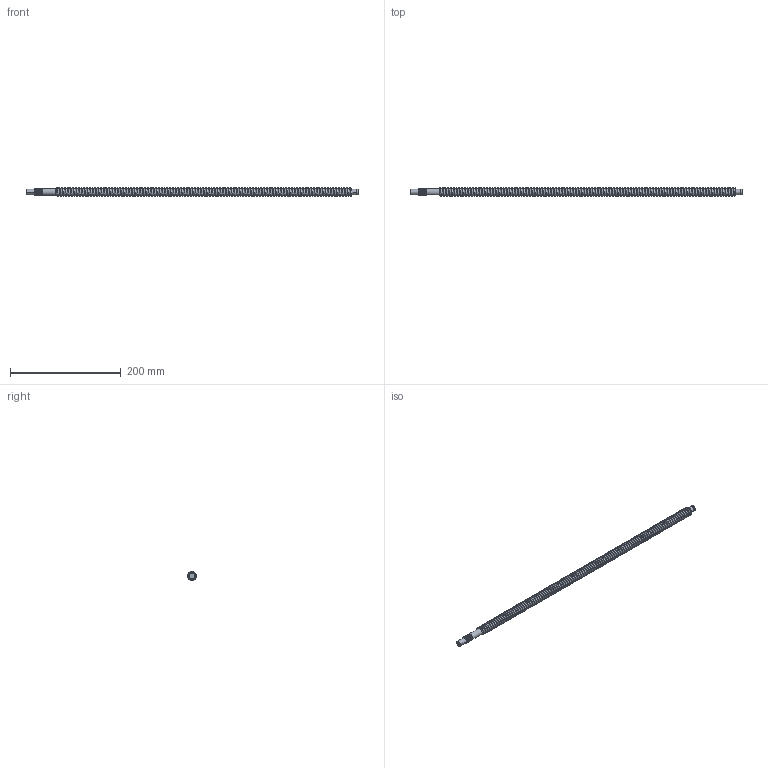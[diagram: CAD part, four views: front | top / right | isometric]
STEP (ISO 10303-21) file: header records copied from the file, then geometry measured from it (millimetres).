
FILE_DESCRIPTION (( 'STEP AP214' ), '1' );
FILE_NAME ('Pos.112 Spindel X-Achse und Y-Achse (3x).STEP', '2017-03-12T10:21:04', ( 'C.Loibl@hotmail.com' ), ( '' ), 'SwSTEP 2.0', 'SolidWorks 2015', '' );
FILE_SCHEMA (( 'AUTOMOTIVE_DESIGN' ));
Length unit declared in the file: millimetre
Products named in the file (1): Pos.112 Spindel X-Achse und Y-Achse (3x)
Bounding box: 600 x 16 x 15.99 mm (x, y, z)
Volume: 83583.8 mm3; surface area: 36777.6 mm2
Topology: 1 solids, 1 shells, 267 faces, 783 edges, 520 vertices
Faces by surface type: cylinder 255, plane 8, bspline 4
Entity records: 22320 total; most frequent: CARTESIAN_POINT 16690, ORIENTED_EDGE 1558, DIRECTION 833, EDGE_CURVE 779, VERTEX_POINT 518, AXIS2_PLACEMENT_3D 288, EDGE_LOOP 271, ADVANCED_FACE 267
